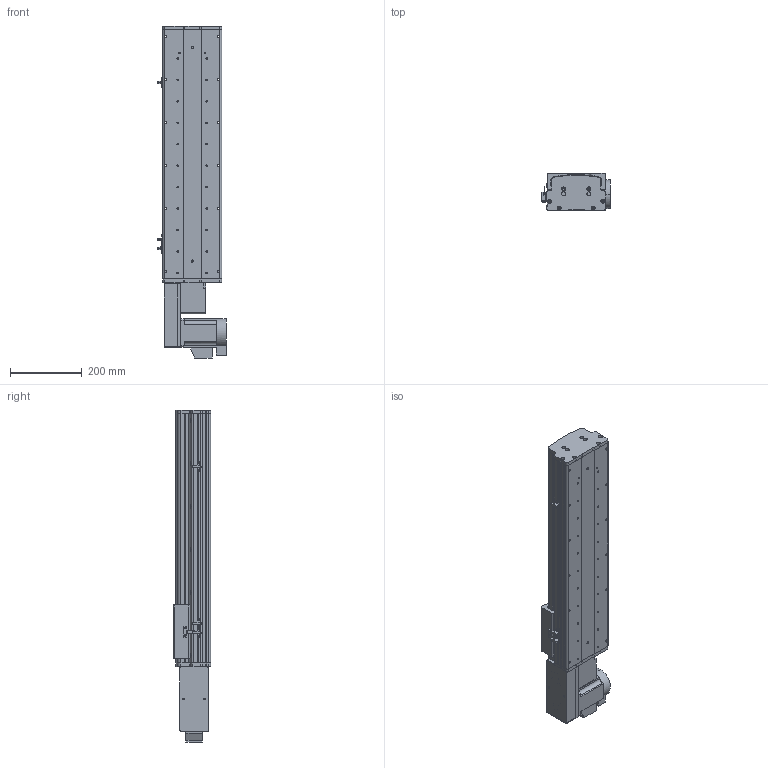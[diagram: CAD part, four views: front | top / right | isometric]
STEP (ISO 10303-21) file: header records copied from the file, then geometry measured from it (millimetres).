
FILE_DESCRIPTION (( 'STEP AP214' ), '1' );
FILE_NAME ('KSD165B-S450-MLB-CM .STEP', '2017-10-16T05:52:28', ( '微软用户' ), ( '微软中国' ), 'SwSTEP 2.0', 'SolidWorks 2014', '' );
FILE_SCHEMA (( 'AUTOMOTIVE_DESIGN' ));
Length unit declared in the file: millimetre
Products named in the file (17): 覜茼え68遵圉猾敕; KSD165模组-同步带-防撞垫2; KSD165模组同步带-防撞垫1; KSD165耀郪-ヶ傷啣1-肮祭湍; KSD165模组-后端板1-同步带; KSD165模组-同步带滑动座-最新版; KSD165B-S450-MLB-CM  ; HTPA26S5M250-A-H8 750W萇儂蚚; HTPA26S5M250-A-H8 400W萇儂蚚 ; 130宽模组马达安装板连板左右折同步带; 130宽模组保护罩上下左右折-同步带; 165宽马达安装板同步带左-改; KSD165模组-同步带防尘盖1-450行程-最新版; KSD165模组同步带底板-450行程-最新; 拸秶雄ん750W侜督萇儂; U倰嫖萇假蚾璃; U倰嫖萇EEㄜSX672
Assembly tree (20 placements, depth 2):
  KSD165B-S450-MLB-CM  
    KSD165模组-同步带滑动座-最新版
    KSD165模组-后端板1-同步带
    KSD165耀郪-ヶ傷啣1-肮祭湍
    KSD165模组同步带-防撞垫1
    KSD165模组-同步带-防撞垫2
    覜茼え68遵圉猾敕
    U倰嫖萇EEㄜSX672  x3
    U倰嫖萇假蚾璃  x3
    拸秶雄ん750W侜督萇儂
    KSD165模组同步带底板-450行程-最新
    KSD165模组-同步带防尘盖1-450行程-最新版
    165宽马达安装板同步带左-改
    130宽模组保护罩上下左右折-同步带
    130宽模组马达安装板连板左右折同步带
    HTPA26S5M250-A-H8 400W萇儂蚚 
    HTPA26S5M250-A-H8 750W萇儂蚚
Bounding box: 191.2 x 104 x 928 mm (x, y, z)
Volume: 5436378 mm3; surface area: 1256500.3 mm2
Topology: 21 solids, 22 shells, 1893 faces, 5328 edges, 3476 vertices
Faces by surface type: cylinder 1201, plane 580, cone 112
Entity records: 60292 total; most frequent: CARTESIAN_POINT 12438, DIRECTION 10048, ORIENTED_EDGE 9316, EDGE_CURVE 4658, AXIS2_PLACEMENT_3D 3932, VERTEX_POINT 3068, CIRCLE 2236, VECTOR 2184
